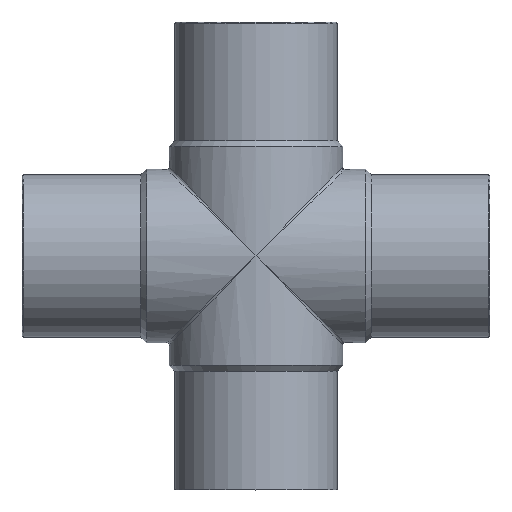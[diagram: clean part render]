
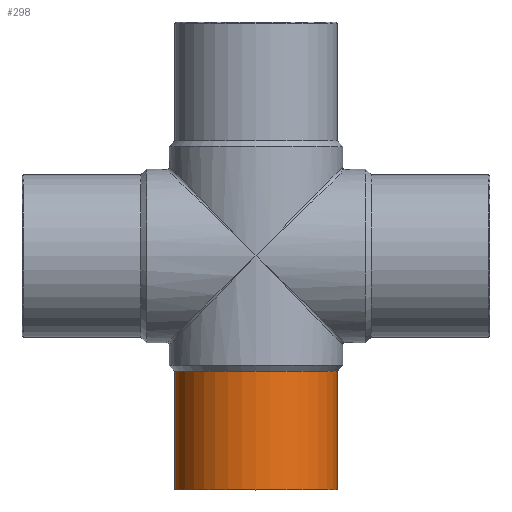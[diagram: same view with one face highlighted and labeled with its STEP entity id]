
A CAD part, top view. The second image highlights one B-rep face of the part: STEP entity #298.
In plain terms, the highlighted cylindrical face has radius 62.5 mm (diameter 125 mm), a full revolution.
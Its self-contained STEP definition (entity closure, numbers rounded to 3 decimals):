
#37=CIRCLE('',#343,62.5);
#38=CIRCLE('',#345,62.5);
#64=ORIENTED_EDGE('',*,*,#122,.F.);
#65=ORIENTED_EDGE('',*,*,#123,.T.);
#122=EDGE_CURVE('',#153,#153,#37,.T.);
#123=EDGE_CURVE('',#154,#154,#38,.T.);
#153=VERTEX_POINT('',#515);
#154=VERTEX_POINT('',#518);
#190=EDGE_LOOP('',(#64));
#191=EDGE_LOOP('',(#65));
#240=FACE_BOUND('',#190,.T.);
#241=FACE_BOUND('',#191,.T.);
#284=CYLINDRICAL_SURFACE('',#346,62.5);
#298=ADVANCED_FACE('',(#240,#241),#284,.T.);
#343=AXIS2_PLACEMENT_3D('',#514,#408,#409);
#345=AXIS2_PLACEMENT_3D('',#517,#412,#413);
#346=AXIS2_PLACEMENT_3D('',#519,#414,#415);
#408=DIRECTION('',(0.,-1.,0.));
#409=DIRECTION('',(1.,0.,0.));
#412=DIRECTION('',(0.,-1.,0.));
#413=DIRECTION('',(1.,0.,0.));
#414=DIRECTION('',(0.,1.,0.));
#415=DIRECTION('',(1.,0.,0.));
#514=CARTESIAN_POINT('',(0.,-179.5,0.));
#515=CARTESIAN_POINT('',(62.5,-179.5,0.));
#517=CARTESIAN_POINT('',(0.,-88.5,0.));
#518=CARTESIAN_POINT('',(62.5,-88.5,0.));
#519=CARTESIAN_POINT('',(0.,0.,0.));
